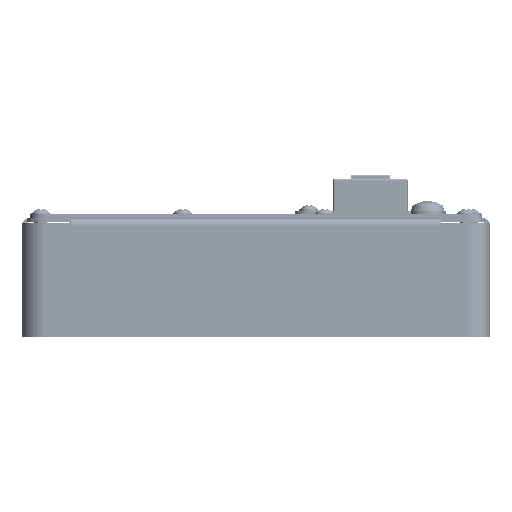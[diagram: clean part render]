
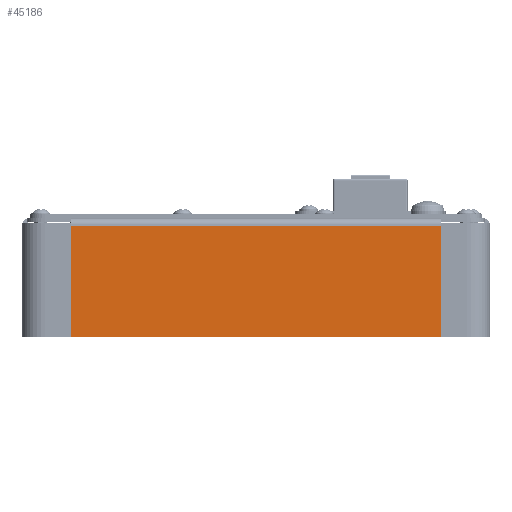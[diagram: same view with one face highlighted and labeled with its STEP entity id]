
A CAD part, left-side view. The second image highlights one B-rep face of the part: STEP entity #45186.
In plain terms, the highlighted planar face has unit normal (-1, 0, 0).
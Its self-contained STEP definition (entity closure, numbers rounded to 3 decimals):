
#4133 = VECTOR ( 'NONE', #155604, 1000. ) ;
#16827 = CARTESIAN_POINT ( 'NONE',  ( -199.5, -97.8, -63. ) ) ;
#22137 = ORIENTED_EDGE ( 'NONE', *, *, #84072, .F. ) ;
#25289 = DIRECTION ( 'NONE',  ( 0., 1., 0. ) ) ;
#32912 = CARTESIAN_POINT ( 'NONE',  ( -199.5, -97.8, -63. ) ) ;
#34277 = CARTESIAN_POINT ( 'NONE',  ( -199.5, 0., -4. ) ) ;
#44579 = LINE ( 'NONE', #212642, #98223 ) ;
#45186 = ADVANCED_FACE ( 'NONE', ( #68669 ), #111397, .T. ) ;
#62899 = CARTESIAN_POINT ( 'NONE',  ( -199.5, -97.8, -4. ) ) ;
#66509 = VERTEX_POINT ( 'NONE', #62899 ) ;
#67172 = ORIENTED_EDGE ( 'NONE', *, *, #265544, .F. ) ;
#67784 = AXIS2_PLACEMENT_3D ( 'NONE', #195394, #133409, #217404 ) ;
#68669 = FACE_OUTER_BOUND ( 'NONE', #137202, .T. ) ;
#73656 = ORIENTED_EDGE ( 'NONE', *, *, #140394, .T. ) ;
#80219 = DIRECTION ( 'NONE',  ( 0., 0., -1. ) ) ;
#84072 = EDGE_CURVE ( 'NONE', #163030, #267054, #44579, .T. ) ;
#98223 = VECTOR ( 'NONE', #25289, 1000. ) ;
#100889 = LINE ( 'NONE', #16827, #265241 ) ;
#111397 = PLANE ( 'NONE',  #67784 ) ;
#117668 = ORIENTED_EDGE ( 'NONE', *, *, #125104, .F. ) ;
#125104 = EDGE_CURVE ( 'NONE', #267054, #271938, #216096, .T. ) ;
#125133 = CARTESIAN_POINT ( 'NONE',  ( -199.5, 97.8, -63. ) ) ;
#133409 = DIRECTION ( 'NONE',  ( -1., 0., 0. ) ) ;
#137202 = EDGE_LOOP ( 'NONE', ( #67172, #73656, #117668, #22137 ) ) ;
#139020 = LINE ( 'NONE', #34277, #4133 ) ;
#140394 = EDGE_CURVE ( 'NONE', #66509, #271938, #139020, .T. ) ;
#155604 = DIRECTION ( 'NONE',  ( 0., 1., 0. ) ) ;
#163030 = VERTEX_POINT ( 'NONE', #32912 ) ;
#169371 = CARTESIAN_POINT ( 'NONE',  ( -199.5, 97.8, -2. ) ) ;
#182364 = VECTOR ( 'NONE', #214737, 1000. ) ;
#195394 = CARTESIAN_POINT ( 'NONE',  ( -199.5, 0., 0. ) ) ;
#212642 = CARTESIAN_POINT ( 'NONE',  ( -199.5, 97.8, -63. ) ) ;
#214737 = DIRECTION ( 'NONE',  ( 0., 0., 1. ) ) ;
#216096 = LINE ( 'NONE', #169371, #182364 ) ;
#217404 = DIRECTION ( 'NONE',  ( 0., 0., 1. ) ) ;
#223263 = CARTESIAN_POINT ( 'NONE',  ( -199.5, 97.8, -4. ) ) ;
#265241 = VECTOR ( 'NONE', #80219, 1000. ) ;
#265544 = EDGE_CURVE ( 'NONE', #66509, #163030, #100889, .T. ) ;
#267054 = VERTEX_POINT ( 'NONE', #125133 ) ;
#271938 = VERTEX_POINT ( 'NONE', #223263 ) ;
